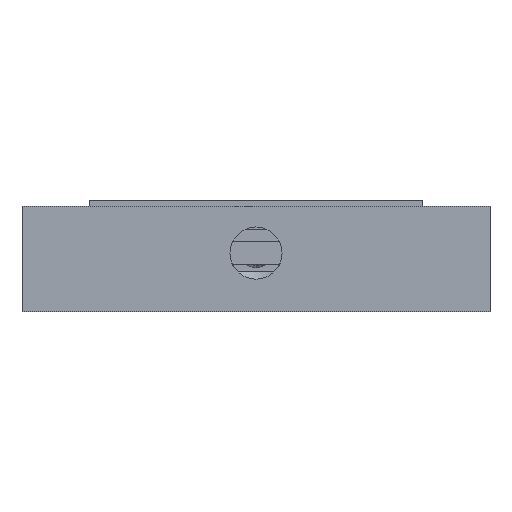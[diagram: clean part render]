
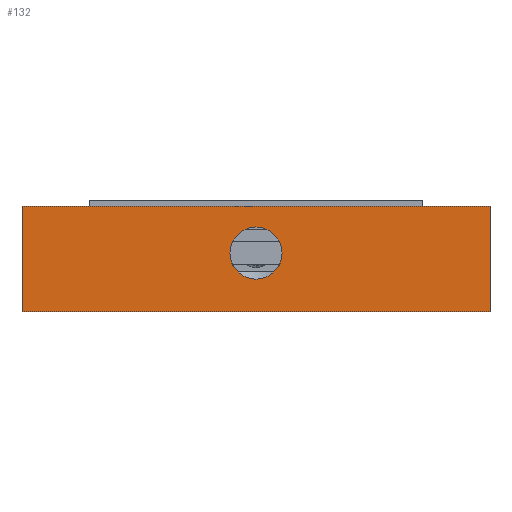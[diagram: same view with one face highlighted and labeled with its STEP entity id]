
A CAD part, left-side view. The second image highlights one B-rep face of the part: STEP entity #132.
In plain terms, the highlighted planar face has unit normal (-1, 0, 0).
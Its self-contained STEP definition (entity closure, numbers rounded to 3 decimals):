
#114 = ORIENTED_EDGE ( 'NONE', *, *, #130, .T. ) ;
#115 = EDGE_LOOP ( 'NONE', ( #116, #117 ) ) ;
#116 = ORIENTED_EDGE ( 'NONE', *, *, #9333, .T. ) ;
#117 = ORIENTED_EDGE ( 'NONE', *, *, #214, .T. ) ;
#128 = VERTEX_POINT ( 'NONE', #10938 ) ;
#130 = EDGE_CURVE ( 'NONE', #296, #128, #10937, .T. ) ;
#132 = ADVANCED_FACE ( 'NONE', ( #10933, #10932 ), #10931, .T. ) ;
#133 = EDGE_LOOP ( 'NONE', ( #134, #137, #139, #114 ) ) ;
#134 = ORIENTED_EDGE ( 'NONE', *, *, #135, .T. ) ;
#135 = EDGE_CURVE ( 'NONE', #128, #136, #10926, .T. ) ;
#136 = VERTEX_POINT ( 'NONE', #10922 ) ;
#137 = ORIENTED_EDGE ( 'NONE', *, *, #138, .F. ) ;
#138 = EDGE_CURVE ( 'NONE', #299, #136, #10921, .T. ) ;
#139 = ORIENTED_EDGE ( 'NONE', *, *, #298, .T. ) ;
#214 = EDGE_CURVE ( 'NONE', #9331, #9334, #10958, .T. ) ;
#296 = VERTEX_POINT ( 'NONE', #11070 ) ;
#298 = EDGE_CURVE ( 'NONE', #299, #296, #11069, .T. ) ;
#299 = VERTEX_POINT ( 'NONE', #11065 ) ;
#9331 = VERTEX_POINT ( 'NONE', #22668 ) ;
#9333 = EDGE_CURVE ( 'NONE', #9334, #9331, #22667, .T. ) ;
#9334 = VERTEX_POINT ( 'NONE', #22662 ) ;
#10918 = DIRECTION ( 'NONE',  ( 0., 0., -1. ) ) ;
#10919 = VECTOR ( 'NONE', #10918, 1000. ) ;
#10920 = CARTESIAN_POINT ( 'NONE',  ( 0., 0., 9. ) ) ;
#10921 = LINE ( 'NONE', #10920, #10919 ) ;
#10922 = CARTESIAN_POINT ( 'NONE',  ( 0., 0., 0. ) ) ;
#10923 = DIRECTION ( 'NONE',  ( 0., -1., 0. ) ) ;
#10924 = VECTOR ( 'NONE', #10923, 1000. ) ;
#10925 = CARTESIAN_POINT ( 'NONE',  ( 0., 40., 0. ) ) ;
#10926 = LINE ( 'NONE', #10925, #10924 ) ;
#10927 = DIRECTION ( 'NONE',  ( 0., -1., 0. ) ) ;
#10928 = DIRECTION ( 'NONE',  ( -1., 0., 0. ) ) ;
#10929 = CARTESIAN_POINT ( 'NONE',  ( 0., 0., 0. ) ) ;
#10930 = AXIS2_PLACEMENT_3D ( 'NONE', #10929, #10928, #10927 ) ;
#10931 = PLANE ( 'NONE',  #10930 ) ;
#10932 = FACE_BOUND ( 'NONE', #115, .T. ) ;
#10933 = FACE_OUTER_BOUND ( 'NONE', #133, .T. ) ;
#10934 = DIRECTION ( 'NONE',  ( 0., 0., -1. ) ) ;
#10935 = VECTOR ( 'NONE', #10934, 1000. ) ;
#10936 = CARTESIAN_POINT ( 'NONE',  ( 0., 80., 0. ) ) ;
#10937 = LINE ( 'NONE', #10936, #10935 ) ;
#10938 = CARTESIAN_POINT ( 'NONE',  ( 0., 80., 0. ) ) ;
#10955 = DIRECTION ( 'NONE',  ( 0., -1., 0. ) ) ;
#10956 = DIRECTION ( 'NONE',  ( 1., 0., 0. ) ) ;
#10957 = AXIS2_PLACEMENT_3D ( 'NONE', #10963, #10956, #10955 ) ;
#10958 = CIRCLE ( 'NONE', #10957, 4.458 ) ;
#10963 = CARTESIAN_POINT ( 'NONE',  ( 0., 40., 10. ) ) ;
#11065 = CARTESIAN_POINT ( 'NONE',  ( 0., 0., 18. ) ) ;
#11066 = DIRECTION ( 'NONE',  ( 0., 1., 0. ) ) ;
#11067 = VECTOR ( 'NONE', #11066, 1000. ) ;
#11068 = CARTESIAN_POINT ( 'NONE',  ( 0., 0., 18. ) ) ;
#11069 = LINE ( 'NONE', #11068, #11067 ) ;
#11070 = CARTESIAN_POINT ( 'NONE',  ( 0., 80., 18. ) ) ;
#22662 = CARTESIAN_POINT ( 'NONE',  ( 0., 35.542, 10. ) ) ;
#22663 = DIRECTION ( 'NONE',  ( 0., -1., 0. ) ) ;
#22664 = DIRECTION ( 'NONE',  ( 1., 0., 0. ) ) ;
#22665 = CARTESIAN_POINT ( 'NONE',  ( 0., 40., 10. ) ) ;
#22666 = AXIS2_PLACEMENT_3D ( 'NONE', #22665, #22664, #22663 ) ;
#22667 = CIRCLE ( 'NONE', #22666, 4.458 ) ;
#22668 = CARTESIAN_POINT ( 'NONE',  ( 0., 44.459, 10. ) ) ;
